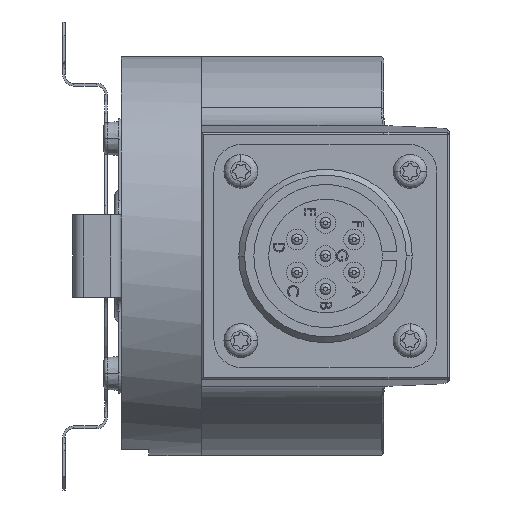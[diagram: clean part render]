
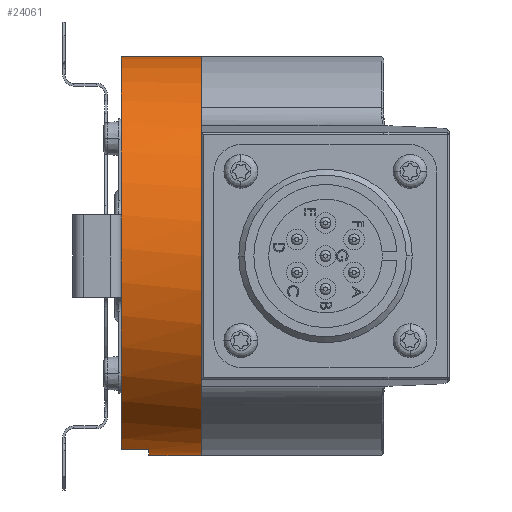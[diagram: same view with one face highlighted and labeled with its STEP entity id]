
A CAD part, front view. The second image highlights one B-rep face of the part: STEP entity #24061.
In plain terms, the highlighted cylindrical face has radius 29 mm (diameter 58 mm), a partial arc.
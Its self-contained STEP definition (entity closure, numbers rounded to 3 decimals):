
#62 = EDGE_CURVE ( 'NONE', #14231, #16866, #3945, .T. ) ;
#1644 = EDGE_CURVE ( 'NONE', #25371, #6182, #26787, .T. ) ;
#2574 = ORIENTED_EDGE ( 'NONE', *, *, #6544, .F. ) ;
#3511 = EDGE_LOOP ( 'NONE', ( #19132, #12620, #6778, #11325, #14061, #2574 ) ) ;
#3945 = CIRCLE ( 'NONE', #24473, 29. ) ;
#4066 = AXIS2_PLACEMENT_3D ( 'NONE', #21197, #9667, #9534 ) ;
#4331 = CARTESIAN_POINT ( 'NONE',  ( 8.068, 25.423, -29. ) ) ;
#4765 = CARTESIAN_POINT ( 'NONE',  ( 0.378, 18.423, -28.142 ) ) ;
#6182 = VERTEX_POINT ( 'NONE', #25224 ) ;
#6544 = EDGE_CURVE ( 'NONE', #14937, #14411, #22434, .T. ) ;
#6705 = CARTESIAN_POINT ( 'NONE',  ( 8.068, 25.423, 0. ) ) ;
#6778 = ORIENTED_EDGE ( 'NONE', *, *, #27286, .F. ) ;
#8034 = CARTESIAN_POINT ( 'NONE',  ( 0.378, 25.423, 0. ) ) ;
#9201 = LINE ( 'NONE', #26211, #20036 ) ;
#9534 = DIRECTION ( 'NONE',  ( 0., 0., -1. ) ) ;
#9667 = DIRECTION ( 'NONE',  ( 1., 0., 0. ) ) ;
#10435 = AXIS2_PLACEMENT_3D ( 'NONE', #6705, #21340, #12705 ) ;
#10715 = DIRECTION ( 'NONE',  ( -1., 0., 0. ) ) ;
#11325 = ORIENTED_EDGE ( 'NONE', *, *, #62, .T. ) ;
#12620 = ORIENTED_EDGE ( 'NONE', *, *, #1644, .T. ) ;
#12705 = DIRECTION ( 'NONE',  ( 0., 0., -1. ) ) ;
#13058 = AXIS2_PLACEMENT_3D ( 'NONE', #22010, #19940, #15739 ) ;
#14061 = ORIENTED_EDGE ( 'NONE', *, *, #20572, .T. ) ;
#14231 = VERTEX_POINT ( 'NONE', #4765 ) ;
#14411 = VERTEX_POINT ( 'NONE', #4331 ) ;
#14480 = LINE ( 'NONE', #16972, #17833 ) ;
#14937 = VERTEX_POINT ( 'NONE', #15060 ) ;
#15060 = CARTESIAN_POINT ( 'NONE',  ( 8.068, 25.423, 29. ) ) ;
#15453 = CARTESIAN_POINT ( 'NONE',  ( -3.622, 25.423, 29. ) ) ;
#15597 = FACE_OUTER_BOUND ( 'NONE', #3511, .T. ) ;
#15739 = DIRECTION ( 'NONE',  ( 0., 0., -1. ) ) ;
#16369 = DIRECTION ( 'NONE',  ( 1., 0., 0. ) ) ;
#16427 = VECTOR ( 'NONE', #16369, 1000. ) ;
#16525 = DIRECTION ( 'NONE',  ( 1., 0., 0. ) ) ;
#16866 = VERTEX_POINT ( 'NONE', #23620 ) ;
#16972 = CARTESIAN_POINT ( 'NONE',  ( 8.068, 18.423, -28.142 ) ) ;
#17833 = VECTOR ( 'NONE', #10715, 1000. ) ;
#18245 = DIRECTION ( 'NONE',  ( 1., 0., 0. ) ) ;
#19132 = ORIENTED_EDGE ( 'NONE', *, *, #22512, .F. ) ;
#19940 = DIRECTION ( 'NONE',  ( 1., 0., 0. ) ) ;
#20036 = VECTOR ( 'NONE', #18245, 1000. ) ;
#20431 = CARTESIAN_POINT ( 'NONE',  ( 8.068, 25.423, 29. ) ) ;
#20572 = EDGE_CURVE ( 'NONE', #16866, #14411, #9201, .T. ) ;
#20721 = LINE ( 'NONE', #20431, #16427 ) ;
#21197 = CARTESIAN_POINT ( 'NONE',  ( -3.622, 25.423, 0. ) ) ;
#21340 = DIRECTION ( 'NONE',  ( 1., 0., 0. ) ) ;
#22010 = CARTESIAN_POINT ( 'NONE',  ( 8.068, 25.423, 0. ) ) ;
#22434 = CIRCLE ( 'NONE', #10435, 29. ) ;
#22512 = EDGE_CURVE ( 'NONE', #25371, #14937, #20721, .T. ) ;
#23620 = CARTESIAN_POINT ( 'NONE',  ( 0.378, 25.423, -29. ) ) ;
#24061 = ADVANCED_FACE ( 'NONE', ( #15597 ), #24106, .T. ) ;
#24106 = CYLINDRICAL_SURFACE ( 'NONE', #13058, 29. ) ;
#24473 = AXIS2_PLACEMENT_3D ( 'NONE', #8034, #16525, #25204 ) ;
#25204 = DIRECTION ( 'NONE',  ( 0., 0., 1. ) ) ;
#25224 = CARTESIAN_POINT ( 'NONE',  ( -3.622, 18.423, -28.142 ) ) ;
#25371 = VERTEX_POINT ( 'NONE', #15453 ) ;
#26211 = CARTESIAN_POINT ( 'NONE',  ( 8.068, 25.423, -29. ) ) ;
#26787 = CIRCLE ( 'NONE', #4066, 29. ) ;
#27286 = EDGE_CURVE ( 'NONE', #14231, #6182, #14480, .T. ) ;
